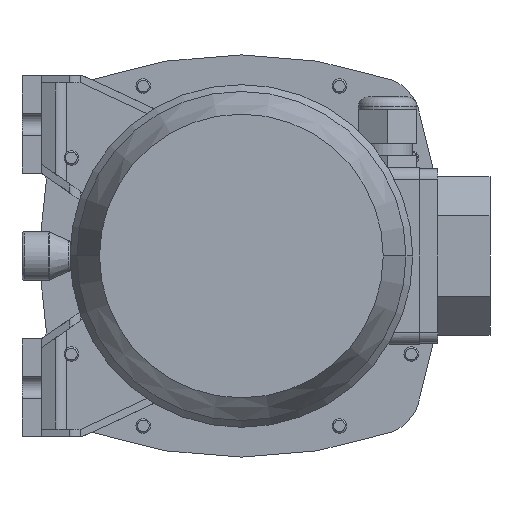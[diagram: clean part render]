
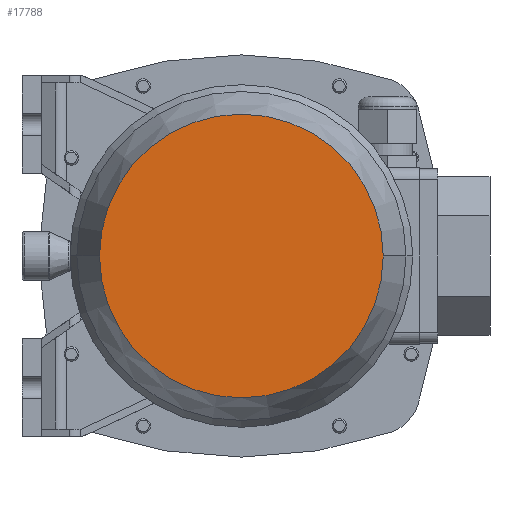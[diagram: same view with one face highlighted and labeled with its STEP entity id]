
A CAD part, front view. The second image highlights one B-rep face of the part: STEP entity #17788.
In plain terms, the highlighted planar face has unit normal (0, -1, 0) as drawn and (1, 0, 0) by its records, which use the part's own axes.
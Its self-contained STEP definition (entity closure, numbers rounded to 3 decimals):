
#11938=CARTESIAN_POINT('',(181.,0.,0.));
#11939=DIRECTION('',(-1.,0.,0.));
#11940=DIRECTION('',(0.,1.,0.));
#11941=AXIS2_PLACEMENT_3D('',#11938,#11939,#11940);
#11943=CARTESIAN_POINT('',(181.,0.,0.));
#11944=DIRECTION('',(1.,0.,0.));
#11945=DIRECTION('',(0.,1.,0.));
#11946=AXIS2_PLACEMENT_3D('',#11943,#11944,#11945);
#13076=CARTESIAN_POINT('',(181.,58.207,0.));
#13078=VERTEX_POINT('',#13076);
#13086=CARTESIAN_POINT('',(181.,-58.207,0.));
#13088=VERTEX_POINT('',#13086);
#17779=CARTESIAN_POINT('',(181.,0.,0.));
#17780=DIRECTION('',(1.,0.,0.));
#17781=DIRECTION('',(0.,-1.,0.));
#17782=AXIS2_PLACEMENT_3D('',#17779,#17780,#17781);
#17783=PLANE('',#17782);
#17784=ORIENTED_EDGE('',*,*,#17761,.T.);
#17785=ORIENTED_EDGE('',*,*,#17772,.F.);
#17786=EDGE_LOOP('',(#17784,#17785));
#17787=FACE_OUTER_BOUND('',#17786,.F.);
#17788=ADVANCED_FACE('',(#17787),#17783,.T.);
#11942=CIRCLE('',#11941,58.207);
#11947=CIRCLE('',#11946,58.207);
#17761=EDGE_CURVE('',#13078,#13088,#11942,.T.);
#17772=EDGE_CURVE('',#13078,#13088,#11947,.T.);
